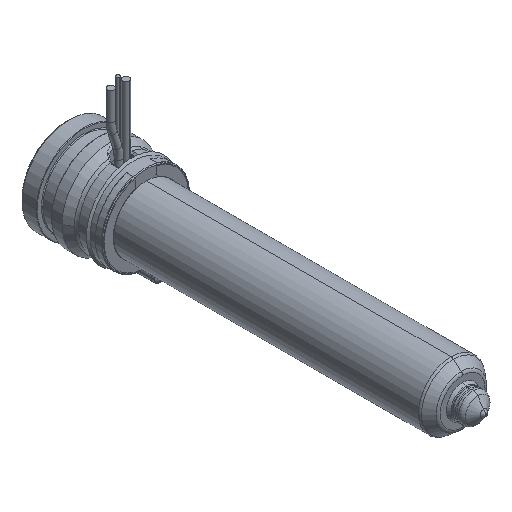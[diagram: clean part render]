
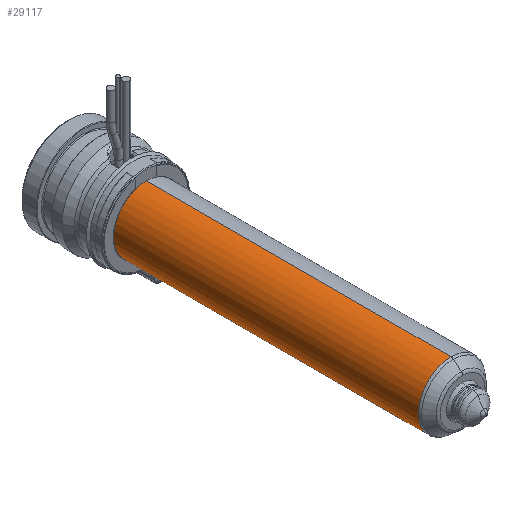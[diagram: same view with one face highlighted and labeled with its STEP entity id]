
A CAD part, isometric view. The second image highlights one B-rep face of the part: STEP entity #29117.
In plain terms, the highlighted cylindrical face has radius 9 mm (diameter 18 mm), a partial arc.
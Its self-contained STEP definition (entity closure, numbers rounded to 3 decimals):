
#28568=CARTESIAN_POINT('',(0.,-105.836,0.));
#28569=DIRECTION('',(0.,-1.,0.));
#28570=DIRECTION('',(0.,0.,1.));
#28571=AXIS2_PLACEMENT_3D('',#28568,#28569,#28570);
#28576=CARTESIAN_POINT('',(0.,-22.,0.));
#28577=DIRECTION('',(0.,-1.,0.));
#28578=DIRECTION('',(0.,0.,1.));
#28579=AXIS2_PLACEMENT_3D('',#28576,#28577,#28578);
#28584=DIRECTION('',(0.,-1.,0.));
#28585=VECTOR('',#28584,83.836);
#28586=CARTESIAN_POINT('',(0.,-22.,9.));
#28587=LINE('',#28586,#28585);
#28599=DIRECTION('',(0.,-1.,0.));
#28600=VECTOR('',#28599,83.836);
#28601=CARTESIAN_POINT('',(0.,-22.,-9.));
#28602=LINE('',#28601,#28600);
#28798=CARTESIAN_POINT('',(0.,-22.,9.));
#28799=CARTESIAN_POINT('',(0.,-105.836,9.));
#28800=VERTEX_POINT('',#28798);
#28801=VERTEX_POINT('',#28799);
#28820=CARTESIAN_POINT('',(0.,-22.,-9.));
#28821=CARTESIAN_POINT('',(0.,-105.836,-9.));
#28822=VERTEX_POINT('',#28820);
#28823=VERTEX_POINT('',#28821);
#29103=CARTESIAN_POINT('',(0.,-13.125,0.));
#29104=DIRECTION('',(0.,-1.,0.));
#29105=DIRECTION('',(0.,0.,1.));
#29106=AXIS2_PLACEMENT_3D('',#29103,#29104,#29105);
#29107=CYLINDRICAL_SURFACE('',#29106,9.);
#29109=ORIENTED_EDGE('',*,*,#29108,.T.);
#29110=ORIENTED_EDGE('',*,*,#29098,.T.);
#29112=ORIENTED_EDGE('',*,*,#29111,.F.);
#29114=ORIENTED_EDGE('',*,*,#29113,.F.);
#29115=EDGE_LOOP('',(#29109,#29110,#29112,#29114));
#29116=FACE_OUTER_BOUND('',#29115,.F.);
#29117=ADVANCED_FACE('',(#29116),#29107,.T.);
#28572=CIRCLE('',#28571,9.);
#28580=CIRCLE('',#28579,9.);
#29098=EDGE_CURVE('',#28801,#28823,#28572,.T.);
#29108=EDGE_CURVE('',#28800,#28801,#28587,.T.);
#29111=EDGE_CURVE('',#28822,#28823,#28602,.T.);
#29113=EDGE_CURVE('',#28800,#28822,#28580,.T.);
